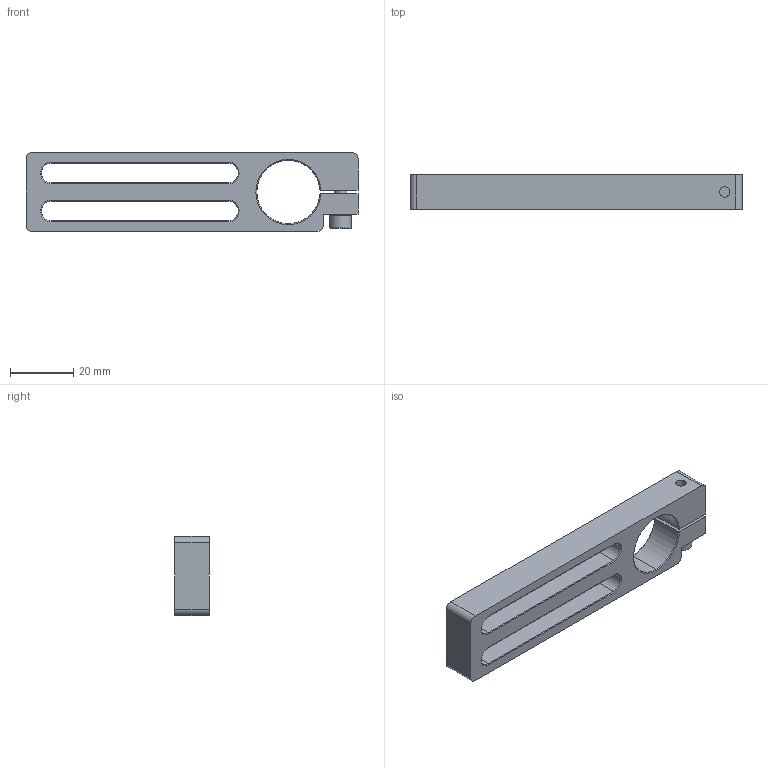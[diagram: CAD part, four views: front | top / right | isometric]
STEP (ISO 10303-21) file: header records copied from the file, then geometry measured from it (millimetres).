
FILE_DESCRIPTION (( 'STEP AP214' ), '1' );
FILE_NAME ('SMBE7-2056.STEP', '2019-12-18T02:58:21', ( '微软用户' ), ( '微软中国' ), 'SwSTEP 2.0', 'SolidWorks 2016', '' );
FILE_SCHEMA (( 'AUTOMOTIVE_DESIGN' ));
Length unit declared in the file: millimetre
Products named in the file (1): SMBE7-2056
Bounding box: 105 x 11 x 25 mm (x, y, z)
Volume: 16373.1 mm3; surface area: 10123.3 mm2
Topology: 3 solids, 3 shells, 236 faces, 664 edges, 434 vertices
Faces by surface type: plane 193, cylinder 23, cone 20
Entity records: 10318 total; most frequent: DIRECTION 1360, CARTESIAN_POINT 1347, ORIENTED_EDGE 1328, EDGE_CURVE 664, AXIS2_PLACEMENT_3D 463, VERTEX_POINT 434, LINE 434, VECTOR 434
